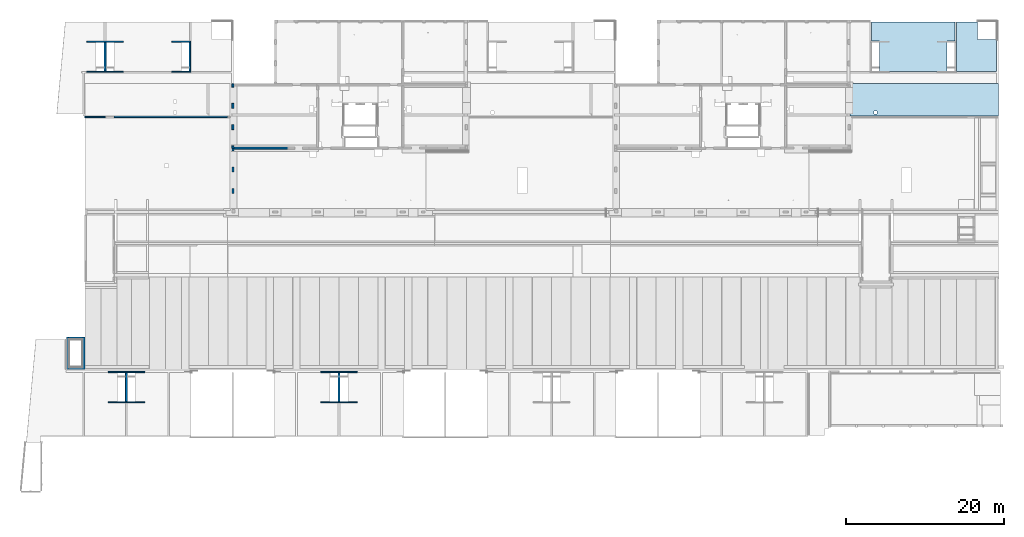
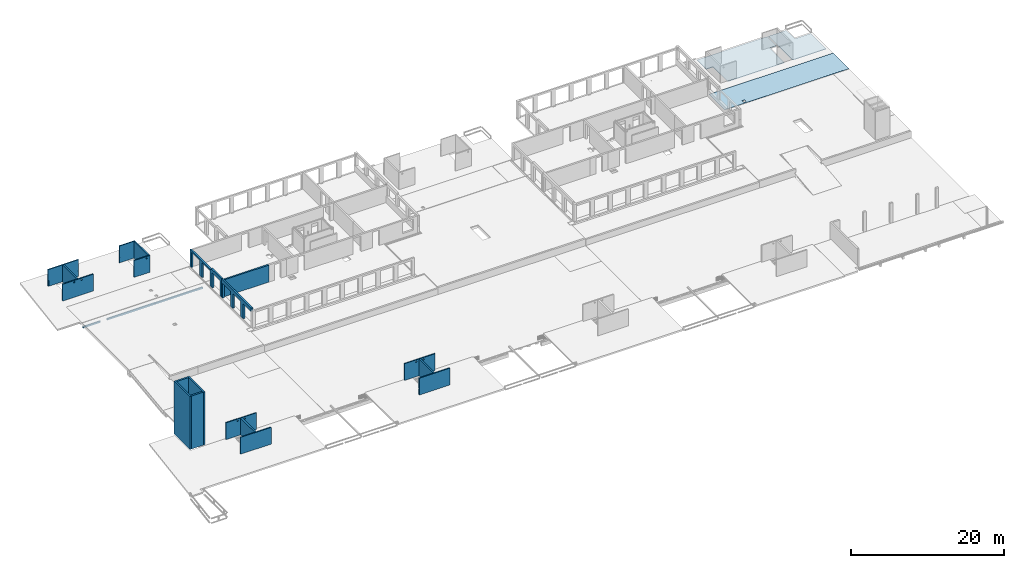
# One storey, part 18 of 36: 21 walls, 3 slabs, 32 openings.
"""IFC2X3 building model written with IfcOpenShell, lengths in millimetres."""

from ifc_helpers import new_model, entity, si_unit, converted_unit, derived_unit, direction, frame, frame_2d, origin, origin_2d_with_axis, place, context, subcontext, project, spatial, polyline, rectangle, circle, outline, extrude, material, layer, layer_set, layer_usage, type_object, element, save


model = new_model("IFC2X3")

# Units and contexts
model_context = context("Model", 3, precision=0.01, world=origin(), true_north=direction((6.12303176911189e-17, 1.0)))
body_context = subcontext(model_context, "Body", "Model", "MODEL_VIEW")
ifc_project = project(units=[si_unit("LENGTHUNIT", "METRE", prefix="MILLI"), si_unit("AREAUNIT", "SQUARE_METRE"), si_unit("VOLUMEUNIT", "CUBIC_METRE"), converted_unit("PLANEANGLEUNIT", "DEGREE", entity("IfcRatioMeasure", 0.0174532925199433), si_unit("PLANEANGLEUNIT", "RADIAN"), dimensions=[0, 0, 0, 0, 0, 0, 0]), si_unit("MASSUNIT", "GRAM", prefix="KILO"), derived_unit("MASSDENSITYUNIT", [(si_unit("MASSUNIT", "GRAM", prefix="KILO"), 1), (si_unit("LENGTHUNIT", "METRE"), -3)]), si_unit("TIMEUNIT", "SECOND"), si_unit("FREQUENCYUNIT", "HERTZ"), si_unit("THERMODYNAMICTEMPERATUREUNIT", "DEGREE_CELSIUS"), derived_unit("THERMALTRANSMITTANCEUNIT", [(si_unit("MASSUNIT", "GRAM", prefix="KILO"), 1), (si_unit("THERMODYNAMICTEMPERATUREUNIT", "KELVIN"), -1), (si_unit("TIMEUNIT", "SECOND"), -3)]), derived_unit("VOLUMETRICFLOWRATEUNIT", [(si_unit("LENGTHUNIT", "METRE"), 3), (si_unit("TIMEUNIT", "SECOND"), -1)]), si_unit("ELECTRICCURRENTUNIT", "AMPERE"), si_unit("ELECTRICVOLTAGEUNIT", "VOLT"), si_unit("POWERUNIT", "WATT"), si_unit("FORCEUNIT", "NEWTON", prefix="KILO"), si_unit("ILLUMINANCEUNIT", "LUX"), si_unit("LUMINOUSFLUXUNIT", "LUMEN"), si_unit("LUMINOUSINTENSITYUNIT", "CANDELA"), derived_unit("USERDEFINED", [(si_unit("MASSUNIT", "GRAM", prefix="KILO"), -1), (si_unit("LENGTHUNIT", "METRE"), -2), (si_unit("TIMEUNIT", "SECOND"), 3), (si_unit("LUMINOUSFLUXUNIT", "LUMEN"), 1)]), derived_unit("LINEARVELOCITYUNIT", [(si_unit("LENGTHUNIT", "METRE"), 1), (si_unit("TIMEUNIT", "SECOND"), -1)]), si_unit("PRESSUREUNIT", "PASCAL"), derived_unit("USERDEFINED", [(si_unit("LENGTHUNIT", "METRE"), -2), (si_unit("MASSUNIT", "GRAM", prefix="KILO"), 1), (si_unit("TIMEUNIT", "SECOND"), -2)])], contexts=[model_context])

# Site, building, storey
site_placement = place(None, origin())
site = spatial("IfcSite", under=ifc_project, at=site_placement, Name="Default", CompositionType="ELEMENT")
building_placement = place(site_placement, origin())
building = spatial("IfcBuilding", under=site, at=building_placement, Name="niet gebruiken", CompositionType="ELEMENT")
storey_placement = place(building_placement, frame((0.0, 0.0, 12600.0)))
storey = spatial("IfcBuildingStorey", under=building, at=storey_placement, Name="04 vierde verdieping", CompositionType="ELEMENT", Elevation=12600.0)

# Slabs
ifc_material_1 = material(Name="NLRS_f2_beton prefab")
ifc_layer_1 = layer(ifc_material_1, 70.0)
ifc_layer_set_1 = layer_set([ifc_layer_1], Name="Floor:NLRS_23.21_FL_breedplaatschil d=70_gen")
ifc_layer_usage_1 = layer_usage(ifc_layer_set_1, "AXIS3", "POSITIVE", 0.0)
slab_1_placement = place(storey_placement, origin())
element("IfcSlab", 1, at=slab_1_placement, inside=storey, material=ifc_layer_usage_1, Name="Floor:NLRS_23.21_FL_breedplaatschil d=70_gen", ObjectType="Floor:NLRS_23.21_FL_breedplaatschil d=70_gen", PredefinedType="FLOOR", context=body_context, shape_type="SweptSolid", body=[
    extrude(outline(polyline([(360.0, -5295.0), (2770.0, -5295.0), (2770.0, 5295.0), (360.0, 5295.0), (360.0, 4275.0), (-3490.0, 4275.0), (-3490.0, -4275.0), (360.0, -4275.0), (360.0, -5295.0)])), frame((113400.0, 50216.0, -270.0), z_axis=(0.0, 0.0, -1.0), x_axis=(0.0, 1.0, 0.0)), (0.0, 0.0, 1.0), 69.9999999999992),
])
ifc_layer_usage_2 = layer_usage(ifc_layer_set_1, "AXIS3", "POSITIVE", 0.0)
slab_2_placement = place(storey_placement, origin())
element("IfcSlab", 2, at=slab_2_placement, inside=storey, material=ifc_layer_usage_2, Name="Floor:NLRS_23.21_FL_breedplaatschil d=70_gen", ObjectType="Floor:NLRS_23.21_FL_breedplaatschil d=70_gen", PredefinedType="FLOOR", context=body_context, shape_type="SweptSolid", body=[
    extrude(outline(polyline([(-3430.0, -2580.0), (2830.0, -2580.0), (2830.0, 95.0), (600.0, 95.0), (600.0, 2485.0), (-3430.0, 2485.0), (-3430.0, -2580.0)])), frame((121485.0, 50156.0, -270.0), z_axis=(0.0, 0.0, -1.0), x_axis=(0.0, 1.0, 0.0)), (0.0, 0.0, 1.0), 69.9999999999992),
])
ifc_material_2 = material(Name="NLRS_f2_beton ihwg")
ifc_layer_2 = layer(ifc_material_2, 1.0)
ifc_layer_set_2 = layer_set([ifc_layer_2], Name="Floor:NLRS_23.21_FL_beton bpv d=var_gen")
ifc_layer_usage_3 = layer_usage(ifc_layer_set_2, "AXIS3", "POSITIVE", 0.0)
slab_3_placement = place(storey_placement, origin())
element("IfcSlab", 3, at=slab_3_placement, inside=storey, material=ifc_layer_usage_3, Name="Floor:NLRS_23.21_FL_beton bpv d=var_gen", ObjectType="Floor:NLRS_23.21_FL_beton bpv d=var_gen", PredefinedType="FLOOR", context=body_context, shape_type="SweptSolid", body=[
    extrude(outline(polyline([(-2057.49999999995, -9400.0), (2057.49999999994, -9400.0), (2057.49999999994, 9400.0), (-2057.49999999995, 9400.0), (-2057.49999999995, -9400.0)]), holes=[polyline([(1407.50000000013, -6000.0), (1807.50000000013, -6000.0), (1807.50000000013, -6400.0), (1407.50000000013, -6400.0), (1407.50000000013, -6000.0)])]), frame((114800.0, 43118.5000000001, -92.0), z_axis=(0.0, 0.0, 1.0), x_axis=(0.0, -1.0, 0.0)), (0.0, 0.0, 1.0), 6.49997677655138),
])

# Wall, opening
ifc_layer_3 = layer(ifc_material_2, 250.0)
ifc_layer_set_3 = layer_set([ifc_layer_3], Name="Basic Wall:NLRS_22.21_WA_beton ihwg d=250_gen")
ifc_layer_usage_4 = layer_usage(ifc_layer_set_3, "AXIS2", "NEGATIVE", 125.0)
wall_type_1 = type_object("IfcWallType", Name="Basic Wall:NLRS_22.21_WA_beton ihwg d=250_gen", PredefinedType="STANDARD", material=ifc_layer_set_3)
wall_1_placement = place(storey_placement, frame((27170.0, 36981.0, -90.0)))
wall_1 = element("IfcWallStandardCase", 4, at=wall_1_placement, inside=storey, type_object=wall_type_1, material=ifc_layer_usage_4, Name="Basic Wall:NLRS_22.21_WA_beton ihwg d=250_gen", ObjectType="Basic Wall:NLRS_22.21_WA_beton ihwg d=250_gen", context=body_context, shape_type="SweptSolid", body=[
    extrude(rectangle(XDim=6855.0, YDim=250.000000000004, at=frame_2d((3427.5, 0.0), x_axis=(-1.0, 0.0))), origin(), (0.0, 0.0, 1.0), 2719.99999999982),
])
opening_1_placement = place(wall_1_placement, origin())
element("IfcOpeningElement", 5, at=opening_1_placement, cuts=wall_1, Name="Basic Wall:NLRS_22.21_WA_beton ihwg d=250_gen", ObjectType="Recess", context=body_context, shape_type="SweptSolid", body=[
    extrude(rectangle(XDim=55000.0, YDim=20.0000000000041, at=frame_2d((0.0, -2.16626716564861e-12), x_axis=(1.0, 0.0))), frame((10.0, -140.0, 27500.0), z_axis=(0.0, 1.0, 0.0), x_axis=(0.0, 0.0, -1.0)), (0.0, 0.0, 1.0), 124.999999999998),
])

# Walls
ifc_layer_4 = layer(ifc_material_1, 250.0)
ifc_layer_set_4 = layer_set([ifc_layer_4], Name="Basic Wall:NLRS_21.21_WA_beton prefab d=250_gen")
ifc_layer_usage_5 = layer_usage(ifc_layer_set_4, "AXIS2", "NEGATIVE", 125.0)
wall_type_2 = type_object("IfcWallType", Name="Basic Wall:NLRS_21.21_WA_beton prefab d=250_gen", PredefinedType="STANDARD", material=ifc_layer_set_4)
wall_2_placement = place(storey_placement, frame((6050.0, 12986.0, -70.0), z_axis=(0.0, 0.0, 1.0), x_axis=(0.0, -1.0, 0.0)))
element("IfcWallStandardCase", 6, at=wall_2_placement, inside=storey, type_object=wall_type_2, material=ifc_layer_usage_5, Name="Basic Wall:NLRS_21.21_WA_beton prefab d=250_gen", ObjectType="Basic Wall:NLRS_21.21_WA_beton prefab d=250_gen", context=body_context, shape_type="SweptSolid", body=[
    extrude(rectangle(XDim=4100.0, YDim=249.999999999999, at=frame_2d((2050.0, 0.0), x_axis=(-1.0, 0.0))), origin(), (0.0, 0.0, 1.0), 8469.99999999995),
])
ifc_layer_usage_6 = layer_usage(ifc_layer_set_4, "AXIS2", "NEGATIVE", 125.0)
wall_3_placement = place(storey_placement, frame((6175.0, 12861.0, -70.0)))
element("IfcWallStandardCase", 7, at=wall_3_placement, inside=storey, type_object=wall_type_2, material=ifc_layer_usage_6, Name="Basic Wall:NLRS_21.21_WA_beton prefab d=250_gen", ObjectType="Basic Wall:NLRS_21.21_WA_beton prefab d=250_gen", context=body_context, shape_type="SweptSolid", body=[
    extrude(rectangle(XDim=1799.99999999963, YDim=249.999999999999, at=frame_2d((899.999999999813, 0.0), x_axis=(-1.0, 0.0))), origin(), (0.0, 0.0, 1.0), 8469.99999999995),
])

# Wall, openings
ifc_layer_usage_7 = layer_usage(ifc_layer_set_4, "AXIS2", "NEGATIVE", 125.0)
wall_4_placement = place(storey_placement, frame((8100.0, 12986.0, -70.0), z_axis=(0.0, 0.0, 1.0), x_axis=(0.0, -1.0, 0.0)))
wall_4 = element("IfcWallStandardCase", 8, at=wall_4_placement, inside=storey, type_object=wall_type_2, material=ifc_layer_usage_7, Name="Basic Wall:NLRS_21.21_WA_beton prefab d=250_gen", ObjectType="Basic Wall:NLRS_21.21_WA_beton prefab d=250_gen", context=body_context, shape_type="SweptSolid", body=[
    extrude(rectangle(XDim=4100.0, YDim=249.999999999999, at=frame_2d((2050.0, 0.0), x_axis=(-1.0, 0.0))), origin(), (0.0, 0.0, 1.0), 8469.99999999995),
])
opening_2_placement = place(wall_4_placement, origin())
element("IfcOpeningElement", 9, at=opening_2_placement, cuts=wall_4, Name="Basic Wall:NLRS_21.21_WA_beton prefab d=250_gen", ObjectType="Opening", context=body_context, shape_type="SweptSolid", body=[
    extrude(rectangle(XDim=1460.0, YDim=1465.0, at=frame_2d((0.0, -1.08002495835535e-12), x_axis=(1.0, 0.0))), frame((2050.0, -1649.0, 2370.0), z_axis=(0.0, 1.0, 0.0), x_axis=(0.0, 0.0, 1.0)), (0.0, 0.0, 1.0), 3048.0),
])
opening_3_placement = place(wall_4_placement, origin())
element("IfcOpeningElement", 10, at=opening_3_placement, cuts=wall_4, Name="Basic Wall:NLRS_21.21_WA_beton prefab d=250_gen", ObjectType="Opening", context=body_context, shape_type="SweptSolid", body=[
    extrude(rectangle(XDim=1060.0, YDim=1465.0, at=origin_2d_with_axis()), frame((2050.0, -1649.0, 5640.0), z_axis=(0.0, 1.0, 0.0), x_axis=(0.0, 0.0, 1.0)), (0.0, 0.0, 1.0), 3048.0),
])

# Wall
ifc_layer_usage_8 = layer_usage(ifc_layer_set_4, "AXIS2", "NEGATIVE", 125.0)
wall_5_placement = place(storey_placement, frame((7975.0, 9011.0, -70.0), z_axis=(0.0, 0.0, 1.0), x_axis=(-1.0, 0.0, 0.0)))
element("IfcWallStandardCase", 11, at=wall_5_placement, inside=storey, type_object=wall_type_2, material=ifc_layer_usage_8, Name="Basic Wall:NLRS_21.21_WA_beton prefab d=250_gen", ObjectType="Basic Wall:NLRS_21.21_WA_beton prefab d=250_gen", context=body_context, shape_type="SweptSolid", body=[
    extrude(rectangle(XDim=1800.00000000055, YDim=249.999999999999, at=frame_2d((900.000000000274, 0.0), x_axis=(-1.0, 0.0))), origin(), (0.0, 0.0, 1.0), 8469.99999999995),
])

# Wall, openings
ifc_layer_usage_9 = layer_usage(ifc_layer_set_4, "AXIS2", "NEGATIVE", 125.0)
wall_6_placement = place(storey_placement, frame((27025.0, 45156.0, -60.0), z_axis=(0.0, 0.0, 1.0), x_axis=(0.0, -1.0, 0.0)))
wall_6 = element("IfcWallStandardCase", 12, at=wall_6_placement, inside=storey, type_object=wall_type_2, material=ifc_layer_usage_9, Name="Basic Wall:NLRS_21.21_WA_beton prefab d=250_gen", ObjectType="Basic Wall:NLRS_21.21_WA_beton prefab d=250_gen", context=body_context, shape_type="SweptSolid", body=[
    extrude(rectangle(XDim=8189.99999999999, YDim=250.000000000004, at=frame_2d((4095.0, 0.0), x_axis=(-1.0, 0.0))), origin(), (0.0, 0.0, 1.0), 2940.0),
])
opening_4_placement = place(wall_6_placement, origin())
element("IfcOpeningElement", 13, at=opening_4_placement, cuts=wall_6, Name="Basic Wall:NLRS_21.21_WA_beton prefab d=250_gen", ObjectType="Opening", context=body_context, shape_type="SweptSolid", body=[
    extrude(rectangle(XDim=2420.0, YDim=2080.0, at=frame_2d((0.0, 1.02318153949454e-12), x_axis=(0.0, 1.0))), frame((1450.0, -1399.0, 1200.0), z_axis=(0.0, 1.0, 0.0), x_axis=(-1.0, 0.0, 0.0)), (0.0, 0.0, 1.0), 3048.0),
])
opening_5_placement = place(wall_6_placement, origin())
element("IfcOpeningElement", 14, at=opening_5_placement, cuts=wall_6, Name="Basic Wall:NLRS_21.21_WA_beton prefab d=250_gen", ObjectType="Opening", context=body_context, shape_type="SweptSolid", body=[
    extrude(rectangle(XDim=2420.0, YDim=2080.0, at=frame_2d((0.0, 1.02318153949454e-12), x_axis=(0.0, 1.0))), frame((4150.0, -1399.0, 1200.0), z_axis=(0.0, 1.0, 0.0), x_axis=(-1.0, 0.0, 0.0)), (0.0, 0.0, 1.0), 3048.0),
])
opening_6_placement = place(wall_6_placement, origin())
element("IfcOpeningElement", 15, at=opening_6_placement, cuts=wall_6, Name="Basic Wall:NLRS_21.21_WA_beton prefab d=250_gen", ObjectType="Opening", context=body_context, shape_type="SweptSolid", body=[
    extrude(rectangle(XDim=2420.0, YDim=2080.0, at=frame_2d((0.0, 1.02318153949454e-12), x_axis=(0.0, 1.0))), frame((6850.0, -1399.0, 1200.0), z_axis=(0.0, 1.0, 0.0), x_axis=(-1.0, 0.0, 0.0)), (0.0, 0.0, 1.0), 3048.0),
])
opening_7_placement = place(wall_6_placement, origin())
element("IfcOpeningElement", 16, at=opening_7_placement, cuts=wall_6, Name="Basic Wall:NLRS_21.21_WA_beton prefab d=250_gen", ObjectType="Opening", context=body_context, shape_type="SweptSolid", body=[
    extrude(rectangle(XDim=250.000000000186, YDim=5499.99999999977, at=frame_2d((0.0, 0.0), x_axis=(0.0, 1.0))), frame((2750.0, 125.0, 2815.0), z_axis=(0.0, -1.0, 0.0), x_axis=(-1.0, 0.0, 0.0)), (0.0, 0.0, 1.0), 250.0),
])

# Walls
ifc_layer_5 = layer(ifc_material_2, 250.0)
ifc_layer_set_5 = layer_set([ifc_layer_5], Name="Basic Wall:NLRS_21.21_WA_beton ihwg d=250_gen")
ifc_layer_usage_10 = layer_usage(ifc_layer_set_5, "AXIS2", "NEGATIVE", 125.0)
wall_type_3 = type_object("IfcWallType", Name="Basic Wall:NLRS_21.21_WA_beton ihwg d=250_gen", PredefinedType="STANDARD", material=ifc_layer_set_5)
wall_7_placement = place(storey_placement, frame((13500.0, 8496.0, -90.0), z_axis=(0.0, 0.0, 1.0), x_axis=(0.0, -1.0, 0.0)))
element("IfcWallStandardCase", 17, at=wall_7_placement, inside=storey, type_object=wall_type_3, material=ifc_layer_usage_10, Name="Basic Wall:NLRS_21.21_WA_beton ihwg d=250_gen", ObjectType="Basic Wall:NLRS_21.21_WA_beton ihwg d=250_gen", context=body_context, shape_type="SweptSolid", body=[
    extrude(rectangle(XDim=3679.99999999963, YDim=249.999999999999, at=frame_2d((1839.99999999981, -7.8159700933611e-14), x_axis=(-1.0, 0.0))), origin(), (0.0, 0.0, 1.0), 2690.0),
])
ifc_layer_usage_11 = layer_usage(ifc_layer_set_5, "AXIS2", "NEGATIVE", 125.0)
wall_8_placement = place(storey_placement, frame((40500.0, 8496.0, -90.0), z_axis=(0.0, 0.0, 1.0), x_axis=(0.0, -1.0, 0.0)))
element("IfcWallStandardCase", 18, at=wall_8_placement, inside=storey, type_object=wall_type_3, material=ifc_layer_usage_11, Name="Basic Wall:NLRS_21.21_WA_beton ihwg d=250_gen", ObjectType="Basic Wall:NLRS_21.21_WA_beton ihwg d=250_gen", context=body_context, shape_type="SweptSolid", body=[
    extrude(rectangle(XDim=3679.99999999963, YDim=249.999999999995, at=frame_2d((1839.99999999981, -1.15818465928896e-12), x_axis=(-1.0, 0.0))), origin(), (0.0, 0.0, 1.0), 2690.0),
])
ifc_layer_usage_12 = layer_usage(ifc_layer_set_5, "AXIS2", "NEGATIVE", 125.0)
wall_9_placement = place(storey_placement, frame((10800.0, 50426.0, -90.0), z_axis=(0.0, 0.0, 1.0), x_axis=(0.0, -1.0, 0.0)))
element("IfcWallStandardCase", 19, at=wall_9_placement, inside=storey, type_object=wall_type_3, material=ifc_layer_usage_12, Name="Basic Wall:NLRS_21.21_WA_beton ihwg d=250_gen", ObjectType="Basic Wall:NLRS_21.21_WA_beton ihwg d=250_gen", context=body_context, shape_type="SweptSolid", body=[
    extrude(rectangle(XDim=3680.00000000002, YDim=249.999999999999, at=frame_2d((1840.00000000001, -7.8159700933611e-14), x_axis=(-1.0, 0.0))), origin(), (0.0, 0.0, 1.0), 2690.0),
])

# Wall, opening
wall_type_4 = type_object("IfcWallType", Name="NLRS_21.21_SF_WPB_oplegnok ihwg beton_gen:200x250", PredefinedType="NOTDEFINED", material=ifc_material_2)
wall_10_placement = place(storey_placement, frame((11925.0, 40861.0, -895.0)))
wall_10 = element("IfcWall", 20, at=wall_10_placement, inside=storey, type_object=wall_type_4, material=ifc_material_2, Name="NLRS_21.21_SF_WPB_oplegnok ihwg beton_gen:200x250", ObjectType="NLRS_21.21_SF_WPB_oplegnok ihwg beton_gen:200x250", context=body_context, shape_type="SweptSolid", body=[
    extrude(rectangle(XDim=14425.0000000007, YDim=199.999999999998, at=origin_2d_with_axis()), frame((7212.50000000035, 100.0, 0.0)), (0.0, 0.0, 1.0), 250.000000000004),
])
opening_8_placement = place(storey_placement, frame((11925.0, 40861.0, -895.0)))
element("IfcOpeningElement", 21, at=opening_8_placement, cuts=wall_10, Name="NLRS_21.21_SF_WPB_oplegnok ihwg beton_gen:200x250:1", ObjectType="Opening", context=body_context, shape_type="SweptSolid", body=[
    extrude(circle(Radius=55.0, at=origin_2d_with_axis()), frame((7235.0, 0.0, 125.0), z_axis=(0.0, 1.0, 0.0), x_axis=(1.0, 0.0, 0.0)), (0.0, 0.0, 1.0), 199.999999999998),
])

# Wall
wall_11_placement = place(storey_placement, frame((8245.0, 40861.0, -895.0)))
element("IfcWall", 22, at=wall_11_placement, inside=storey, type_object=wall_type_4, material=ifc_material_2, Name="NLRS_21.21_SF_WPB_oplegnok ihwg beton_gen:200x250", ObjectType="NLRS_21.21_SF_WPB_oplegnok ihwg beton_gen:200x250", context=body_context, shape_type="SweptSolid", body=[
    extrude(rectangle(XDim=2654.99999999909, YDim=199.999999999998, at=frame_2d((0.0, 4.33431068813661e-12), x_axis=(1.0, 0.0))), frame((1327.49999999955, 100.0, 0.0)), (0.0, 0.0, 1.0), 250.000000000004),
])

# Wall, openings
ifc_layer_6 = layer(ifc_material_2, 150.0)
ifc_layer_set_6 = layer_set([ifc_layer_6], Name="Basic Wall:NLRS_21.21_WA_beton ihwg d=150_gen")
ifc_layer_usage_13 = layer_usage(ifc_layer_set_6, "AXIS2", "NEGATIVE", 75.0)
wall_type_5 = type_object("IfcWallType", Name="Basic Wall:NLRS_21.21_WA_beton ihwg d=150_gen", PredefinedType="STANDARD", material=ifc_layer_set_6)
wall_12_placement = place(storey_placement, frame((11190.0, 8571.0, -90.0)))
wall_12 = element("IfcWallStandardCase", 23, at=wall_12_placement, inside=storey, type_object=wall_type_5, material=ifc_layer_usage_13, Name="Basic Wall:NLRS_21.21_WA_beton ihwg d=150_gen", ObjectType="Basic Wall:NLRS_21.21_WA_beton ihwg d=150_gen", context=body_context, shape_type="SweptSolid", body=[
    extrude(rectangle(XDim=4620.00000000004, YDim=150.000000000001, at=frame_2d((2310.00000000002, 2.1316282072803e-13), x_axis=(-1.0, 0.0))), origin(), (0.0, 0.0, 1.0), 2690.0),
])
opening_9_placement = place(wall_12_placement, origin())
element("IfcOpeningElement", 24, at=opening_9_placement, cuts=wall_12, Name="Basic Wall:NLRS_21.21_WA_beton ihwg d=150_gen", ObjectType="Opening", context=body_context, shape_type="SweptSolid", body=[
    extrude(circle(Radius=100.0, at=origin_2d_with_axis()), frame((1750.0, -75.0, 2390.0), z_axis=(0.0, 1.0, 0.0), x_axis=(1.0, 0.0, 0.0)), (0.0, 0.0, 1.0), 149.999999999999),
])
opening_10_placement = place(wall_12_placement, origin())
element("IfcOpeningElement", 25, at=opening_10_placement, cuts=wall_12, Name="Basic Wall:NLRS_21.21_WA_beton ihwg d=150_gen", ObjectType="Opening", context=body_context, shape_type="SweptSolid", body=[
    extrude(circle(Radius=100.0, at=origin_2d_with_axis()), frame((2870.0, -75.0, 2390.0), z_axis=(0.0, 1.0, 0.0), x_axis=(1.0, 0.0, 0.0)), (0.0, 0.0, 1.0), 150.000000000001),
])

ifc_layer_usage_14 = layer_usage(ifc_layer_set_6, "AXIS2", "NEGATIVE", 75.0)
wall_13_placement = place(storey_placement, frame((11190.0, 4741.0, -90.0)))
wall_13 = element("IfcWallStandardCase", 26, at=wall_13_placement, inside=storey, type_object=wall_type_5, material=ifc_layer_usage_14, Name="Basic Wall:NLRS_21.21_WA_beton ihwg d=150_gen", ObjectType="Basic Wall:NLRS_21.21_WA_beton ihwg d=150_gen", context=body_context, shape_type="SweptSolid", body=[
    extrude(rectangle(XDim=4620.00000000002, YDim=149.999999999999, at=frame_2d((2310.00000000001, 2.1316282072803e-13), x_axis=(-1.0, 0.0))), origin(), (0.0, 0.0, 1.0), 2690.0),
])
opening_11_placement = place(wall_13_placement, origin())
element("IfcOpeningElement", 27, at=opening_11_placement, cuts=wall_13, Name="Basic Wall:NLRS_21.21_WA_beton ihwg d=150_gen", ObjectType="Recess", context=body_context, shape_type="SweptSolid", body=[
    extrude(rectangle(XDim=75.0000000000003, YDim=125.0, at=frame_2d((0.0, -1.08357767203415e-12), x_axis=(1.0, 0.0))), frame((4557.50000000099, 0.0, 912.500000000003), z_axis=(0.0, 1.0, 0.0), x_axis=(0.0, 0.0, -1.0)), (0.0, 0.0, 1.0), 75.0000000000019),
])
opening_12_placement = place(wall_13_placement, origin())
element("IfcOpeningElement", 28, at=opening_12_placement, cuts=wall_13, Name="Basic Wall:NLRS_21.21_WA_beton ihwg d=150_gen", ObjectType="Recess", context=body_context, shape_type="SweptSolid", body=[
    extrude(rectangle(XDim=875.0, YDim=49.9999999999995, at=frame_2d((0.0, 1.08357767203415e-12), x_axis=(1.0, 0.0))), frame((4520.0, 35.0, 437.499999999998), z_axis=(0.0, 1.0, 0.0), x_axis=(0.0, 0.0, -1.0)), (0.0, 0.0, 1.0), 40.0000000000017),
])
opening_13_placement = place(wall_13_placement, origin())
element("IfcOpeningElement", 29, at=opening_13_placement, cuts=wall_13, Name="Basic Wall:NLRS_21.21_WA_beton ihwg d=150_gen", ObjectType="Recess", context=body_context, shape_type="SweptSolid", body=[
    extrude(rectangle(XDim=875.0, YDim=49.9999999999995, at=frame_2d((0.0, -1.08357767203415e-12), x_axis=(1.0, 0.0))), frame((100.0, 35.0, 437.5), z_axis=(0.0, 1.0, 0.0), x_axis=(0.0, 0.0, -1.0)), (0.0, 0.0, 1.0), 40.0000000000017),
])
opening_14_placement = place(wall_13_placement, origin())
element("IfcOpeningElement", 30, at=opening_14_placement, cuts=wall_13, Name="Basic Wall:NLRS_21.21_WA_beton ihwg d=150_gen", ObjectType="Recess", context=body_context, shape_type="SweptSolid", body=[
    extrude(rectangle(XDim=75.0000000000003, YDim=125.0, at=frame_2d((0.0, -1.08357767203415e-12), x_axis=(1.0, 0.0))), frame((62.5000000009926, 0.0, 912.500000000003), z_axis=(0.0, 1.0, 0.0), x_axis=(0.0, 0.0, -1.0)), (0.0, 0.0, 1.0), 75.0000000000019),
])

ifc_layer_usage_15 = layer_usage(ifc_layer_set_6, "AXIS2", "NEGATIVE", 75.0)
wall_14_placement = place(storey_placement, frame((19270.0, 50501.0, -90.0)))
wall_14 = element("IfcWallStandardCase", 31, at=wall_14_placement, inside=storey, type_object=wall_type_5, material=ifc_layer_usage_15, Name="Basic Wall:NLRS_21.21_WA_beton ihwg d=150_gen", ObjectType="Basic Wall:NLRS_21.21_WA_beton ihwg d=150_gen", context=body_context, shape_type="SweptSolid", body=[
    extrude(rectangle(XDim=2405.00000000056, YDim=150.000000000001, at=frame_2d((1202.50000000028, 5.6843418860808e-14), x_axis=(-1.0, 0.0))), origin(), (0.0, 0.0, 1.0), 2690.0),
])
opening_15_placement = place(wall_14_placement, origin())
element("IfcOpeningElement", 32, at=opening_15_placement, cuts=wall_14, Name="Basic Wall:NLRS_21.21_WA_beton ihwg d=150_gen", ObjectType="Recess", context=body_context, shape_type="SweptSolid", body=[
    extrude(rectangle(XDim=120.000000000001, YDim=125.000000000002, at=frame_2d((0.0, -1.08357767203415e-12), x_axis=(0.0, 1.0))), frame((62.4999999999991, -75.0, 890.0), z_axis=(0.0, 1.0, 0.0), x_axis=(1.0, 0.0, 0.0)), (0.0, 0.0, 1.0), 75.0000000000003),
])
opening_16_placement = place(wall_14_placement, origin())
element("IfcOpeningElement", 33, at=opening_16_placement, cuts=wall_14, Name="Basic Wall:NLRS_21.21_WA_beton ihwg d=150_gen", ObjectType="Recess", context=body_context, shape_type="SweptSolid", body=[
    extrude(rectangle(XDim=830.0, YDim=50.0000000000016, at=frame_2d((0.0, 1.08002495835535e-12), x_axis=(0.0, 1.0))), frame((100.0, -75.0, 415.0), z_axis=(0.0, 1.0, 0.0), x_axis=(1.0, 0.0, 0.0)), (0.0, 0.0, 1.0), 40.0000000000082),
])

# Wall, opening
ifc_layer_usage_16 = layer_usage(ifc_layer_set_6, "AXIS2", "NEGATIVE", 75.0)
wall_15_placement = place(storey_placement, frame((19270.0, 46671.0, -90.0)))
wall_15 = element("IfcWallStandardCase", 34, at=wall_15_placement, inside=storey, type_object=wall_type_5, material=ifc_layer_usage_16, Name="Basic Wall:NLRS_21.21_WA_beton ihwg d=150_gen", ObjectType="Basic Wall:NLRS_21.21_WA_beton ihwg d=150_gen", context=body_context, shape_type="SweptSolid", body=[
    extrude(rectangle(XDim=2405.00000000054, YDim=150.000000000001, at=frame_2d((1202.50000000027, 5.6843418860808e-14), x_axis=(-1.0, 0.0))), origin(), (0.0, 0.0, 1.0), 2690.0),
])
opening_17_placement = place(wall_15_placement, origin())
element("IfcOpeningElement", 35, at=opening_17_placement, cuts=wall_15, Name="Basic Wall:NLRS_21.21_WA_beton ihwg d=150_gen", ObjectType="Opening", context=body_context, shape_type="SweptSolid", body=[
    extrude(circle(Radius=100.0, at=origin_2d_with_axis()), frame((1910.0, -75.0, 2390.0), z_axis=(0.0, 1.0, 0.0), x_axis=(1.0, 0.0, 0.0)), (0.0, 0.0, 1.0), 150.000000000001),
])

# Wall, openings
ifc_layer_usage_17 = layer_usage(ifc_layer_set_6, "AXIS2", "NEGATIVE", 75.0)
wall_16_placement = place(storey_placement, frame((38190.0, 8571.0, -90.0)))
wall_16 = element("IfcWallStandardCase", 36, at=wall_16_placement, inside=storey, type_object=wall_type_5, material=ifc_layer_usage_17, Name="Basic Wall:NLRS_21.21_WA_beton ihwg d=150_gen", ObjectType="Basic Wall:NLRS_21.21_WA_beton ihwg d=150_gen", context=body_context, shape_type="SweptSolid", body=[
    extrude(rectangle(XDim=4620.00000000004, YDim=150.000000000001, at=frame_2d((2310.00000000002, 2.1316282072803e-13), x_axis=(-1.0, 0.0))), origin(), (0.0, 0.0, 1.0), 2690.0),
])
opening_18_placement = place(wall_16_placement, origin())
element("IfcOpeningElement", 37, at=opening_18_placement, cuts=wall_16, Name="Basic Wall:NLRS_21.21_WA_beton ihwg d=150_gen", ObjectType="Opening", context=body_context, shape_type="SweptSolid", body=[
    extrude(circle(Radius=100.0, at=origin_2d_with_axis()), frame((1750.0, -75.0, 2390.0), z_axis=(0.0, 1.0, 0.0), x_axis=(1.0, 0.0, 0.0)), (0.0, 0.0, 1.0), 150.000000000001),
])
opening_19_placement = place(wall_16_placement, origin())
element("IfcOpeningElement", 38, at=opening_19_placement, cuts=wall_16, Name="Basic Wall:NLRS_21.21_WA_beton ihwg d=150_gen", ObjectType="Opening", context=body_context, shape_type="SweptSolid", body=[
    extrude(circle(Radius=100.0, at=origin_2d_with_axis()), frame((2870.0, -75.0, 2390.0), z_axis=(0.0, 1.0, 0.0), x_axis=(1.0, 0.0, 0.0)), (0.0, 0.0, 1.0), 149.999999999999),
])

ifc_layer_usage_18 = layer_usage(ifc_layer_set_6, "AXIS2", "NEGATIVE", 75.0)
wall_17_placement = place(storey_placement, frame((38190.0, 4741.0, -90.0)))
wall_17 = element("IfcWallStandardCase", 39, at=wall_17_placement, inside=storey, type_object=wall_type_5, material=ifc_layer_usage_18, Name="Basic Wall:NLRS_21.21_WA_beton ihwg d=150_gen", ObjectType="Basic Wall:NLRS_21.21_WA_beton ihwg d=150_gen", context=body_context, shape_type="SweptSolid", body=[
    extrude(rectangle(XDim=4620.00000000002, YDim=149.999999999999, at=frame_2d((2310.00000000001, 2.1316282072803e-13), x_axis=(-1.0, 0.0))), origin(), (0.0, 0.0, 1.0), 2690.0),
])
opening_20_placement = place(wall_17_placement, origin())
element("IfcOpeningElement", 40, at=opening_20_placement, cuts=wall_17, Name="Basic Wall:NLRS_21.21_WA_beton ihwg d=150_gen", ObjectType="Recess", context=body_context, shape_type="SweptSolid", body=[
    extrude(rectangle(XDim=75.0000000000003, YDim=124.999999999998, at=frame_2d((0.0, -4.33075797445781e-12), x_axis=(1.0, 0.0))), frame((4557.5, 0.0, 912.500000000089), z_axis=(0.0, 1.0, 0.0), x_axis=(0.0, 0.0, -1.0)), (0.0, 0.0, 1.0), 75.0000000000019),
])
opening_21_placement = place(wall_17_placement, origin())
element("IfcOpeningElement", 41, at=opening_21_placement, cuts=wall_17, Name="Basic Wall:NLRS_21.21_WA_beton ihwg d=150_gen", ObjectType="Recess", context=body_context, shape_type="SweptSolid", body=[
    extrude(rectangle(XDim=875.0, YDim=49.9999999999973, at=frame_2d((0.0, -4.33253433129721e-12), x_axis=(1.0, 0.0))), frame((4520.0, 35.0, 437.500000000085), z_axis=(0.0, 1.0, 0.0), x_axis=(0.0, 0.0, -1.0)), (0.0, 0.0, 1.0), 40.0000000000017),
])
opening_22_placement = place(wall_17_placement, origin())
element("IfcOpeningElement", 42, at=opening_22_placement, cuts=wall_17, Name="Basic Wall:NLRS_21.21_WA_beton ihwg d=150_gen", ObjectType="Recess", context=body_context, shape_type="SweptSolid", body=[
    extrude(rectangle(XDim=875.0, YDim=50.0000000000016, at=frame_2d((0.0, -2.16715534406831e-12), x_axis=(1.0, 0.0))), frame((100.0, 35.0, 437.500000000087), z_axis=(0.0, 1.0, 0.0), x_axis=(0.0, 0.0, -1.0)), (0.0, 0.0, 1.0), 40.0000000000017),
])
opening_23_placement = place(wall_17_placement, origin())
element("IfcOpeningElement", 43, at=opening_23_placement, cuts=wall_17, Name="Basic Wall:NLRS_21.21_WA_beton ihwg d=150_gen", ObjectType="Recess", context=body_context, shape_type="SweptSolid", body=[
    extrude(rectangle(XDim=75.0000000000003, YDim=125.000000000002, at=frame_2d((0.0, 2.16715534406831e-12), x_axis=(1.0, 0.0))), frame((62.500000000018, 0.0, 912.500000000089), z_axis=(0.0, 1.0, 0.0), x_axis=(0.0, 0.0, -1.0)), (0.0, 0.0, 1.0), 75.0000000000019),
])

ifc_layer_usage_19 = layer_usage(ifc_layer_set_6, "AXIS2", "NEGATIVE", 75.0)
wall_18_placement = place(storey_placement, frame((8490.0, 50501.0, -90.0)))
wall_18 = element("IfcWallStandardCase", 44, at=wall_18_placement, inside=storey, type_object=wall_type_5, material=ifc_layer_usage_19, Name="Basic Wall:NLRS_21.21_WA_beton ihwg d=150_gen", ObjectType="Basic Wall:NLRS_21.21_WA_beton ihwg d=150_gen", context=body_context, shape_type="SweptSolid", body=[
    extrude(rectangle(XDim=4619.99999999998, YDim=150.000000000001, at=frame_2d((2309.99999999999, -1.4139800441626e-12), x_axis=(-1.0, 0.0))), origin(), (0.0, 0.0, 1.0), 2690.0),
])
opening_24_placement = place(wall_18_placement, origin())
element("IfcOpeningElement", 45, at=opening_24_placement, cuts=wall_18, Name="Basic Wall:NLRS_21.21_WA_beton ihwg d=150_gen", ObjectType="Recess", context=body_context, shape_type="SweptSolid", body=[
    extrude(rectangle(XDim=830.0, YDim=49.9999999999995, at=frame_2d((-1.08002495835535e-12, -1.08357767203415e-12), x_axis=(1.0, 0.0))), frame((4520.0, -75.0, 415.0), z_axis=(0.0, 1.0, 0.0), x_axis=(0.0, 0.0, -1.0)), (0.0, 0.0, 1.0), 40.0000000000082),
])
opening_25_placement = place(wall_18_placement, origin())
element("IfcOpeningElement", 46, at=opening_25_placement, cuts=wall_18, Name="Basic Wall:NLRS_21.21_WA_beton ihwg d=150_gen", ObjectType="Recess", context=body_context, shape_type="SweptSolid", body=[
    extrude(rectangle(XDim=120.000000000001, YDim=125.0, at=frame_2d((-1.08357767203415e-12, 1.08357767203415e-12), x_axis=(1.0, 0.0))), frame((4557.49999999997, -75.0, 890.0), z_axis=(0.0, 1.0, 0.0), x_axis=(0.0, 0.0, -1.0)), (0.0, 0.0, 1.0), 75.0000000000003),
])
opening_26_placement = place(wall_18_placement, origin())
element("IfcOpeningElement", 47, at=opening_26_placement, cuts=wall_18, Name="Basic Wall:NLRS_21.21_WA_beton ihwg d=150_gen", ObjectType="Recess", context=body_context, shape_type="SweptSolid", body=[
    extrude(rectangle(XDim=830.0, YDim=50.0000000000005, at=frame_2d((-5.41788836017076e-13, 1.08002495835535e-12), x_axis=(0.0, 1.0))), frame((100.0, -75.0, 415.0), z_axis=(0.0, 1.0, 0.0), x_axis=(1.0, 0.0, 0.0)), (0.0, 0.0, 1.0), 40.0000000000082),
])
opening_27_placement = place(wall_18_placement, origin())
element("IfcOpeningElement", 48, at=opening_27_placement, cuts=wall_18, Name="Basic Wall:NLRS_21.21_WA_beton ihwg d=150_gen", ObjectType="Recess", context=body_context, shape_type="SweptSolid", body=[
    extrude(rectangle(XDim=120.000000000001, YDim=125.0, at=frame_2d((0.0, -1.08357767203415e-12), x_axis=(0.0, 1.0))), frame((62.499999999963, -75.0, 890.0), z_axis=(0.0, 1.0, 0.0), x_axis=(1.0, 0.0, 0.0)), (0.0, 0.0, 1.0), 75.0000000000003),
])

ifc_layer_usage_20 = layer_usage(ifc_layer_set_6, "AXIS2", "NEGATIVE", 75.0)
wall_19_placement = place(storey_placement, frame((8490.0, 46671.0, -90.0)))
wall_19 = element("IfcWallStandardCase", 49, at=wall_19_placement, inside=storey, type_object=wall_type_5, material=ifc_layer_usage_20, Name="Basic Wall:NLRS_21.21_WA_beton ihwg d=150_gen", ObjectType="Basic Wall:NLRS_21.21_WA_beton ihwg d=150_gen", context=body_context, shape_type="SweptSolid", body=[
    extrude(rectangle(XDim=4620.0, YDim=150.000000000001, at=frame_2d((2310.0, 0.0), x_axis=(-1.0, 0.0))), origin(), (0.0, 0.0, 1.0), 2690.0),
])
opening_28_placement = place(wall_19_placement, origin())
element("IfcOpeningElement", 50, at=opening_28_placement, cuts=wall_19, Name="Basic Wall:NLRS_21.21_WA_beton ihwg d=150_gen", ObjectType="Opening", context=body_context, shape_type="SweptSolid", body=[
    extrude(circle(Radius=100.0, at=origin_2d_with_axis()), frame((2870.0, -75.0, 2390.0), z_axis=(0.0, 1.0, 0.0), x_axis=(1.0, 0.0, 0.0)), (0.0, 0.0, 1.0), 150.000000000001),
])
opening_29_placement = place(wall_19_placement, origin())
element("IfcOpeningElement", 51, at=opening_29_placement, cuts=wall_19, Name="Basic Wall:NLRS_21.21_WA_beton ihwg d=150_gen", ObjectType="Opening", context=body_context, shape_type="SweptSolid", body=[
    extrude(circle(Radius=100.0, at=origin_2d_with_axis()), frame((1750.0, -75.0, 2390.0), z_axis=(0.0, 1.0, 0.0), x_axis=(1.0, 0.0, 0.0)), (0.0, 0.0, 1.0), 150.000000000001),
])

# Wall
ifc_layer_7 = layer(ifc_material_2, 200.0)
ifc_layer_set_7 = layer_set([ifc_layer_7], Name="Basic Wall:NLRS_21.21_WA_beton ihwg d=200_gen")
ifc_layer_usage_21 = layer_usage(ifc_layer_set_7, "AXIS2", "NEGATIVE", 100.0)
wall_type_6 = type_object("IfcWallType", Name="Basic Wall:NLRS_21.21_WA_beton ihwg d=200_gen", PredefinedType="STANDARD", material=ifc_layer_set_7)
wall_20_placement = place(storey_placement, frame((21575.0, 50426.0, -90.0), z_axis=(0.0, 0.0, 1.0), x_axis=(0.0, -1.0, 0.0)))
element("IfcWallStandardCase", 52, at=wall_20_placement, inside=storey, type_object=wall_type_6, material=ifc_layer_usage_21, Name="Basic Wall:NLRS_21.21_WA_beton ihwg d=200_gen", ObjectType="Basic Wall:NLRS_21.21_WA_beton ihwg d=200_gen", context=body_context, shape_type="SweptSolid", body=[
    extrude(rectangle(XDim=3679.99999999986, YDim=199.999999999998, at=frame_2d((1839.99999999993, 1.00186525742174e-12), x_axis=(-1.0, 0.0))), origin(), (0.0, 0.0, 1.0), 2690.0),
])

# Wall, openings
ifc_layer_8 = layer(ifc_material_1, 270.0)
ifc_layer_set_8 = layer_set([ifc_layer_8], Name="Basic Wall:NLRS_21.21_WA_beton prefab d=270_gen")
ifc_layer_usage_22 = layer_usage(ifc_layer_set_8, "AXIS2", "NEGATIVE", 135.0)
wall_type_7 = type_object("IfcWallType", Name="Basic Wall:NLRS_21.21_WA_beton prefab d=270_gen", PredefinedType="STANDARD", material=ifc_layer_set_8)
wall_21_placement = place(storey_placement, frame((27035.0, 36946.0, -60.0), z_axis=(0.0, 0.0, 1.0), x_axis=(0.0, -1.0, 0.0)))
wall_21 = element("IfcWallStandardCase", 53, at=wall_21_placement, inside=storey, type_object=wall_type_7, material=ifc_layer_usage_22, Name="Basic Wall:NLRS_21.21_WA_beton prefab d=270_gen", ObjectType="Basic Wall:NLRS_21.21_WA_beton prefab d=270_gen", context=body_context, shape_type="SweptSolid", body=[
    extrude(rectangle(XDim=7779.99999999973, YDim=269.999999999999, at=frame_2d((3889.99999999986, 0.0), x_axis=(-1.0, 0.0))), origin(), (0.0, 0.0, 1.0), 2940.0),
])
opening_30_placement = place(wall_21_placement, origin())
element("IfcOpeningElement", 54, at=opening_30_placement, cuts=wall_21, Name="Basic Wall:NLRS_21.21_WA_beton prefab d=270_gen", ObjectType="Opening", context=body_context, shape_type="SweptSolid", body=[
    extrude(rectangle(XDim=2420.0, YDim=2080.0, at=frame_2d((-2.1600499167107e-12, 1.02318153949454e-12), x_axis=(0.0, 1.0))), frame((1340.0, -1389.0, 1200.0), z_axis=(0.0, 1.0, 0.0), x_axis=(-1.0, 0.0, 0.0)), (0.0, 0.0, 1.0), 3048.0),
])
opening_31_placement = place(wall_21_placement, origin())
element("IfcOpeningElement", 55, at=opening_31_placement, cuts=wall_21, Name="Basic Wall:NLRS_21.21_WA_beton prefab d=270_gen", ObjectType="Opening", context=body_context, shape_type="SweptSolid", body=[
    extrude(rectangle(XDim=2420.0, YDim=2080.0, at=frame_2d((2.1600499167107e-12, 1.02318153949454e-12), x_axis=(0.0, 1.0))), frame((4040.0, -1389.0, 1200.0), z_axis=(0.0, 1.0, 0.0), x_axis=(-1.0, 0.0, 0.0)), (0.0, 0.0, 1.0), 3048.0),
])
opening_32_placement = place(wall_21_placement, origin())
element("IfcOpeningElement", 56, at=opening_32_placement, cuts=wall_21, Name="Basic Wall:NLRS_21.21_WA_beton prefab d=270_gen", ObjectType="Opening", context=body_context, shape_type="SweptSolid", body=[
    extrude(rectangle(XDim=2420.0, YDim=2080.0, at=frame_2d((2.1600499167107e-12, 1.02318153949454e-12), x_axis=(0.0, 1.0))), frame((6740.0, -1389.0, 1200.0), z_axis=(0.0, 1.0, 0.0), x_axis=(-1.0, 0.0, 0.0)), (0.0, 0.0, 1.0), 3048.0),
])

save(model, "model.ifc")
